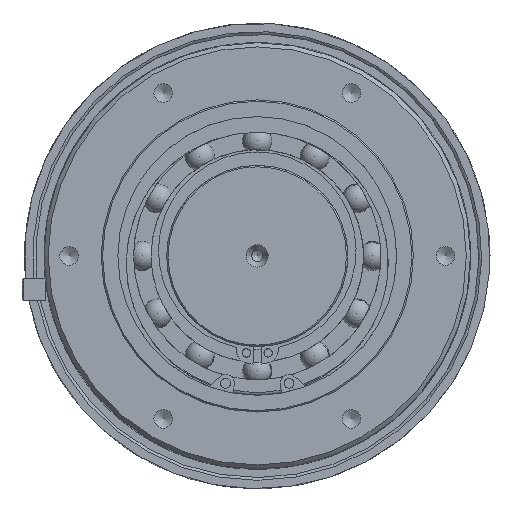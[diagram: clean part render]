
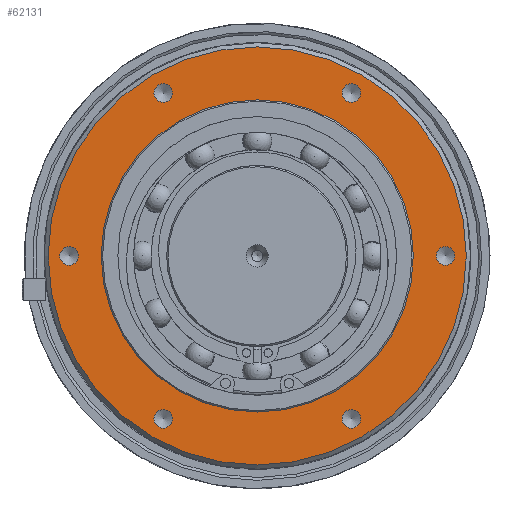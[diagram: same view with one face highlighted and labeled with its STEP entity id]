
A CAD part, left-side view. The second image highlights one B-rep face of the part: STEP entity #62131.
In plain terms, the highlighted planar face has unit normal (-1, 0, 0).
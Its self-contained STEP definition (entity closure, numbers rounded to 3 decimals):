
#62034=CARTESIAN_POINT('',(-34.5,75.,0.0));
#62035=VERTEX_POINT('',#62034);
#62036=CARTESIAN_POINT('',(-34.5,0.0,0.0));
#62037=DIRECTION('',(1.0,0.0,0.0));
#62038=DIRECTION('',(0.0,1.0,0.0));
#62039=AXIS2_PLACEMENT_3D('',#62036,#62037,#62038);
#62040=CIRCLE('',#62039,75.);
#62041=EDGE_CURVE('',#62035,#62035,#62040,.T.);
#62046=CARTESIAN_POINT('',(-34.5,65.5,0.0));
#62047=DIRECTION('',(-1.0,0.0,0.0));
#62048=DIRECTION('',(0.0,0.0,1.0));
#62049=AXIS2_PLACEMENT_3D('',#62046,#62047,#62048);
#62050=PLANE('',#62049);
#62051=ORIENTED_EDGE('',*,*,#62041,.F.);
#62052=EDGE_LOOP('',(#62051));
#62053=FACE_OUTER_BOUND('',#62052,.T.);
#62054=CARTESIAN_POINT('',(-34.5,33.75,61.78));
#62055=VERTEX_POINT('',#62054);
#62056=CARTESIAN_POINT('',(-34.5,33.75,58.457));
#62057=DIRECTION('',(1.0,0.0,0.0));
#62058=DIRECTION('',(0.0,0.0,1.0));
#62059=AXIS2_PLACEMENT_3D('',#62056,#62057,#62058);
#62060=CIRCLE('',#62059,3.324);
#62061=EDGE_CURVE('',#62055,#62055,#62060,.T.);
#62062=ORIENTED_EDGE('',*,*,#62061,.T.);
#62063=EDGE_LOOP('',(#62062));
#62064=FACE_BOUND('',#62063,.T.);
#62065=CARTESIAN_POINT('',(-34.5,-33.75,61.78));
#62066=VERTEX_POINT('',#62065);
#62067=CARTESIAN_POINT('',(-34.5,-33.75,58.457));
#62068=DIRECTION('',(1.0,0.0,0.0));
#62069=DIRECTION('',(0.0,0.0,1.0));
#62070=AXIS2_PLACEMENT_3D('',#62067,#62068,#62069);
#62071=CIRCLE('',#62070,3.324);
#62072=EDGE_CURVE('',#62066,#62066,#62071,.T.);
#62073=ORIENTED_EDGE('',*,*,#62072,.T.);
#62074=EDGE_LOOP('',(#62073));
#62075=FACE_BOUND('',#62074,.T.);
#62076=CARTESIAN_POINT('',(-34.5,-67.5,3.323));
#62077=VERTEX_POINT('',#62076);
#62078=CARTESIAN_POINT('',(-34.5,-67.5,0.));
#62079=DIRECTION('',(1.0,0.0,0.0));
#62080=DIRECTION('',(0.0,0.0,1.0));
#62081=AXIS2_PLACEMENT_3D('',#62078,#62079,#62080);
#62082=CIRCLE('',#62081,3.324);
#62083=EDGE_CURVE('',#62077,#62077,#62082,.T.);
#62084=ORIENTED_EDGE('',*,*,#62083,.T.);
#62085=EDGE_LOOP('',(#62084));
#62086=FACE_BOUND('',#62085,.T.);
#62087=CARTESIAN_POINT('',(-34.5,-33.75,-55.133));
#62088=VERTEX_POINT('',#62087);
#62089=CARTESIAN_POINT('',(-34.5,-33.75,-58.457));
#62090=DIRECTION('',(1.0,0.0,0.0));
#62091=DIRECTION('',(0.0,0.0,1.0));
#62092=AXIS2_PLACEMENT_3D('',#62089,#62090,#62091);
#62093=CIRCLE('',#62092,3.324);
#62094=EDGE_CURVE('',#62088,#62088,#62093,.T.);
#62095=ORIENTED_EDGE('',*,*,#62094,.T.);
#62096=EDGE_LOOP('',(#62095));
#62097=FACE_BOUND('',#62096,.T.);
#62098=CARTESIAN_POINT('',(-34.5,33.75,-55.133));
#62099=VERTEX_POINT('',#62098);
#62100=CARTESIAN_POINT('',(-34.5,33.75,-58.457));
#62101=DIRECTION('',(1.0,0.0,0.0));
#62102=DIRECTION('',(0.0,0.0,1.0));
#62103=AXIS2_PLACEMENT_3D('',#62100,#62101,#62102);
#62104=CIRCLE('',#62103,3.324);
#62105=EDGE_CURVE('',#62099,#62099,#62104,.T.);
#62106=ORIENTED_EDGE('',*,*,#62105,.T.);
#62107=EDGE_LOOP('',(#62106));
#62108=FACE_BOUND('',#62107,.T.);
#62109=CARTESIAN_POINT('',(-34.5,67.5,3.324));
#62110=VERTEX_POINT('',#62109);
#62111=CARTESIAN_POINT('',(-34.5,67.5,0.0));
#62112=DIRECTION('',(1.0,0.0,0.0));
#62113=DIRECTION('',(0.0,0.0,1.0));
#62114=AXIS2_PLACEMENT_3D('',#62111,#62112,#62113);
#62115=CIRCLE('',#62114,3.324);
#62116=EDGE_CURVE('',#62110,#62110,#62115,.T.);
#62117=ORIENTED_EDGE('',*,*,#62116,.T.);
#62118=EDGE_LOOP('',(#62117));
#62119=FACE_BOUND('',#62118,.T.);
#62120=CARTESIAN_POINT('',(-34.5,56.,0.0));
#62121=VERTEX_POINT('',#62120);
#62122=CARTESIAN_POINT('',(-34.5,0.0,0.0));
#62123=DIRECTION('',(1.0,0.0,0.0));
#62124=DIRECTION('',(0.0,1.0,0.0));
#62125=AXIS2_PLACEMENT_3D('',#62122,#62123,#62124);
#62126=CIRCLE('',#62125,56.);
#62127=EDGE_CURVE('',#62121,#62121,#62126,.T.);
#62128=ORIENTED_EDGE('',*,*,#62127,.T.);
#62129=EDGE_LOOP('',(#62128));
#62130=FACE_BOUND('',#62129,.T.);
#62131=ADVANCED_FACE('',(#62053,#62064,#62075,#62086,#62097,#62108,#62119,#62130),#62050,.T.);
